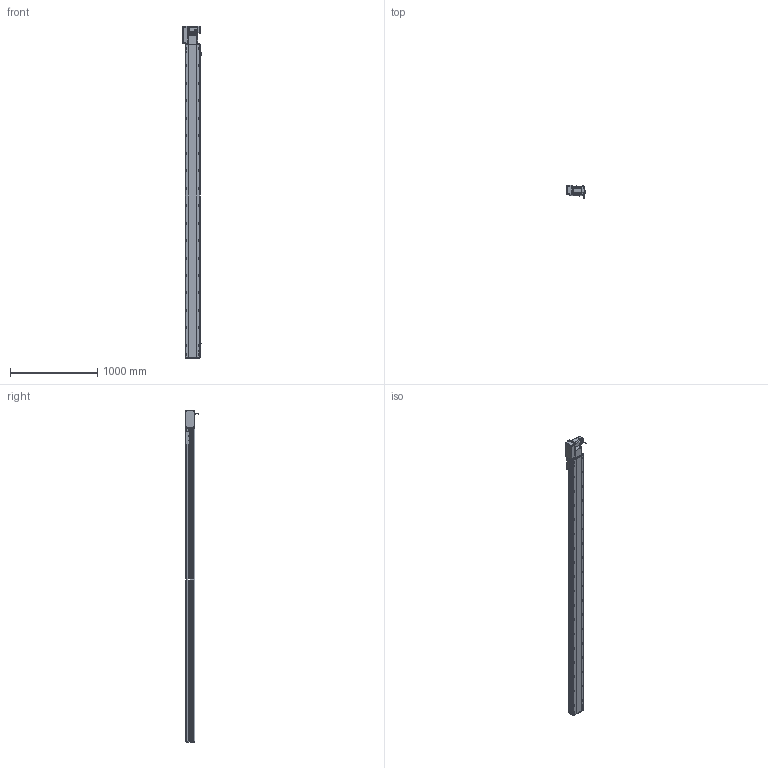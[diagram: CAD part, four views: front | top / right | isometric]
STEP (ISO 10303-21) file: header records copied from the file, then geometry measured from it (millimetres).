
FILE_DESCRIPTION (( 'STEP AP214' ), '1' );
FILE_NAME ('RTB17S-XX-3300-L-M75-C4.STEP', '2025-12-12T00:26:37', ( '' ), ( '' ), 'SwSTEP 2.0', 'SolidWorks 2018', '' );
FILE_SCHEMA (( 'AUTOMOTIVE_DESIGN' ));
Length unit declared in the file: millimetre
Products named in the file (15): RTB22S-GY-008-M75--萇儂啣^RTB17S-L-々湍釱蚾饜-750W_RTB17S-XX-XX-L-M75-C4; RTB17S-L-007奻裔^RTB17S-XX-XX-L-M75-C4; EE672^RTB17S-XX-XX-L-M75-C4; 750W萇儂^RTB17S-XX-XX-L-M75-C4; RTB22S-GY-017P^RTB17S-L-々湍釱蚾饜-750W_RTB17S-XX-XX-L-M75-C4; RTB17S-XX-3300-L-M75-C4; RTB22S-GY-018P^RTB17S-L-々湍釱蚾饜-750W_RTB17S-XX-XX-L-M75-C4; RTB17S-L-001-耜醱啣^RTB17S-XX-XX-L-M75-C4; RMP17S-L-014-T20-P75--々湍釱^RTB17S-L-々湍釱蚾饜-750W_RTB17S-XX-XX-L-M75-C4; RTB17-R-011菁釱^RTB17S-XX-XX-L-M75-C4; RTB22S-GY-005P^RTB17S-L-々湍釱蚾饜-750W_RTB17S-XX-XX-L-M75-C4; RTB17S-賑釱^RTB17S-XX-XX-L-M75-C4; RTB17S-L-004-賑釱^RTB17S-賑釱_RTB17S-XX-XX-L-M75-C4; RTH13-BL-012覜茼え俋离^RTB17S-賑釱_RTB17S-XX-XX-L-M75-C4; RTB17S-L-々湍釱蚾饜-750W^RTB17S-XX-XX-L-M75-C4
Assembly tree (17 placements, depth 3):
  RTB17S-XX-3300-L-M75-C4
    RTB17-R-011菁釱^RTB17S-XX-XX-L-M75-C4
    EE672^RTB17S-XX-XX-L-M75-C4  x3
    RTB17S-L-001-耜醱啣^RTB17S-XX-XX-L-M75-C4
    RTB17S-賑釱^RTB17S-XX-XX-L-M75-C4
      RTB17S-L-004-賑釱^RTB17S-賑釱_RTB17S-XX-XX-L-M75-C4
      RTH13-BL-012覜茼え俋离^RTB17S-賑釱_RTB17S-XX-XX-L-M75-C4
    RTB17S-L-007奻裔^RTB17S-XX-XX-L-M75-C4
    750W萇儂^RTB17S-XX-XX-L-M75-C4
    RTB17S-L-々湍釱蚾饜-750W^RTB17S-XX-XX-L-M75-C4
      RMP17S-L-014-T20-P75--々湍釱^RTB17S-L-々湍釱蚾饜-750W_RTB17S-XX-XX-L-M75-C4
      RTB22S-GY-005P^RTB17S-L-々湍釱蚾饜-750W_RTB17S-XX-XX-L-M75-C4
      RTB22S-GY-017P^RTB17S-L-々湍釱蚾饜-750W_RTB17S-XX-XX-L-M75-C4  x2
      RTB22S-GY-008-M75--萇儂啣^RTB17S-L-々湍釱蚾饜-750W_RTB17S-XX-XX-L-M75-C4
      RTB22S-GY-018P^RTB17S-L-々湍釱蚾饜-750W_RTB17S-XX-XX-L-M75-C4
Bounding box: 210.4 x 152.7 x 3799 mm (x, y, z)
Volume: 26576183.3 mm3; surface area: 4896975.6 mm2
Topology: 17 solids, 17 shells, 2281 faces, 6430 edges, 4166 vertices
Faces by surface type: plane 994, cylinder 871, bspline 294, cone 110, sphere 8, torus 4
Entity records: 67318 total; most frequent: CARTESIAN_POINT 20094, ORIENTED_EDGE 9704, DIRECTION 8942, EDGE_CURVE 4852, AXIS2_PLACEMENT_3D 3186, VERTEX_POINT 3170, LINE 2570, VECTOR 2570
